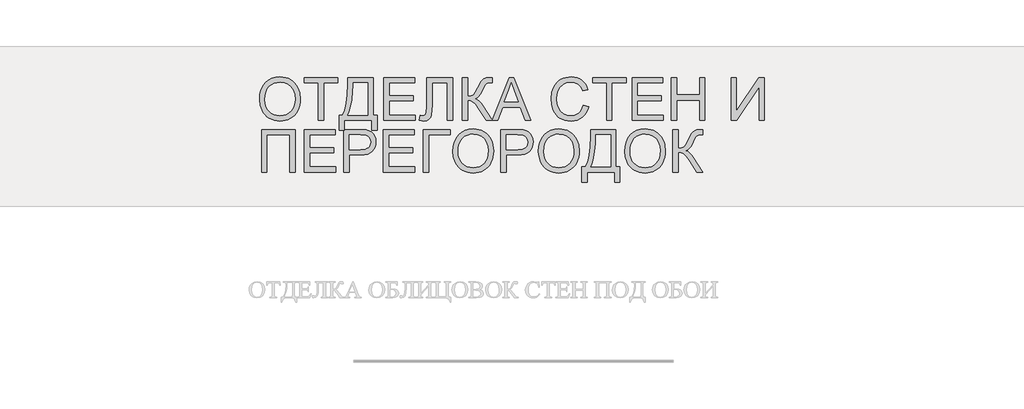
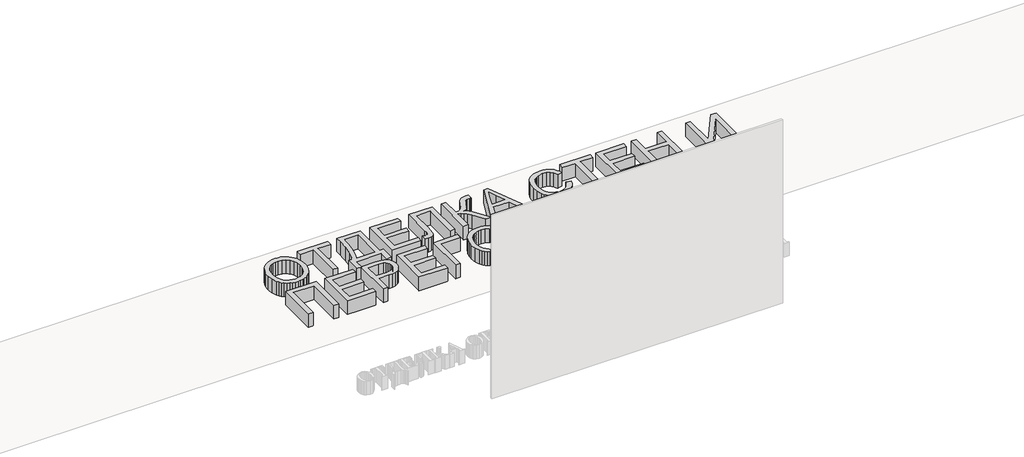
# One storey, part 15 of 17: 1 proxy.
"""IFC4 building model written with IfcOpenShell, lengths in millimetres."""

from ifc_helpers import new_model, si_unit, origin, origin_with_axes, place, context, project, spatial, polyline, outline, extrude, element, save

model = new_model("IFC4")

# Units and contexts
model_context = context("Model", 3, world=origin())
ifc_project = project(units=[si_unit("LENGTHUNIT", "METRE", prefix="MILLI")], contexts=[model_context])

# Site, building, storey
site = spatial("IfcSite", under=ifc_project)
building = spatial("IfcBuilding", under=site)
storey = spatial("IfcBuildingStorey", under=building, Name="Уровень 1", Elevation=0.0)

# Proxy
placement = place(None, origin())
element("IfcBuildingElementProxy", 1, Name="400 мм Arial", ObjectType="400 мм Arial", at=placement, inside=storey, context=model_context, shape_type="SweptSolid", body=[
    extrude(outline(polyline([(-672.1654352, 19327.976291), (-668.817709, 19375.1081059), (-658.7745306, 19416.8320556), (-642.0358998, 19453.1481399), (-618.6018167, 19484.0563588), (-589.8763642, 19508.7351093), (-557.2636254, 19526.3627883), (-520.7636001, 19536.9393956), (-480.3762884, 19540.4649314), (-453.3430931, 19538.8094624), (-427.6710612, 19533.8430555), (-403.3601927, 19525.5657106), (-380.4104875, 19513.9774278), (-359.4657393, 19499.4276948), (-341.1697414, 19482.2659998), (-325.5224939, 19462.4923425), (-312.5239967, 19440.1067231), (-302.30914, 19415.618045), (-295.0128137, 19389.5352115), (-289.1757527, 19332.5870787), (-290.7116601, 19302.9296585), (-295.3193821, 19274.8786564), (-302.9989187, 19248.4340723), (-313.75027, 19223.5959062), (-327.3189843, 19201.0202145), (-343.4506098, 19181.3630532), (-362.1451465, 19164.6244224), (-383.4025944, 19150.8043221), (-406.3860221, 19139.9885915), (-430.2584979, 19132.2630696), (-455.0200219, 19127.6277564), (-480.670594, 19126.082652), (-508.1759045, 19127.7902376), (-534.1851615, 19132.9129944), (-558.6983651, 19141.4509224), (-581.7155153, 19153.4040215), (-602.6357381, 19168.3093737), (-620.8581596, 19185.7040607), (-636.3827798, 19205.5880826), (-649.2095987, 19227.9614392), (-666.4264761, 19276.5831763), (-672.1654352, 19327.976291)]), holes=[polyline([(-621.9372801, 19327.4857817), (-619.4264855, 19294.1863297), (-611.8941016, 19264.6270114), (-599.3401286, 19238.8078267), (-581.7645662, 19216.7287757), (-560.3998194, 19199.0459144), (-536.4782926, 19186.4152993), (-509.999986, 19178.8369301), (-480.9648996, 19176.3108071), (-451.4331724, 19178.8614556), (-424.6421661, 19186.5134011), (-400.5918807, 19199.2666436), (-379.2823161, 19217.1211831), (-361.8355125, 19239.6662181), (-349.3735099, 19266.4909469), (-341.8963083, 19297.5953696), (-339.4039078, 19332.9794861), (-343.671339, 19377.4441566), (-356.4736324, 19415.8755624), (-377.4796943, 19447.3049475), (-406.3584309, 19470.7635561), (-441.1968559, 19485.3684713), (-480.0819828, 19490.2367763), (-508.1084594, 19487.8915286), (-534.1115851, 19480.8557855), (-558.0913599, 19469.1295469), (-580.0477836, 19452.7128128), (-598.3744383, 19430.8146371), (-611.464906, 19402.6440733), (-619.3191866, 19368.2011215), (-621.9372801, 19327.4857817)])]), origin_with_axes(), (0.0, 0.0, 1.0), 150.0),
    extrude(outline(polyline([(-119.6557294, 19132.3611714), (-119.6557294, 19483.9582569), (-251.5046364, 19483.9582569), (-251.5046364, 19534.186412), (62.4213328, 19534.186412), (62.4213328, 19483.9582569), (-69.4275743, 19483.9582569), (-69.4275743, 19132.3611714), (-119.6557294, 19132.3611714)])), origin_with_axes(), (0.0, 0.0, 1.0), 150.0),
    extrude(outline(polyline([(156.5991235, 19534.186412), (395.1828602, 19534.186412), (395.1828602, 19182.5893265), (432.8539765, 19182.5893265), (432.8539765, 19038.1833807), (382.6258214, 19038.1833807), (382.6258214, 19132.3611714), (125.2065266, 19132.3611714), (125.2065266, 19038.1833807), (74.9783715, 19038.1833807), (74.9783715, 19182.5893265), (106.3709685, 19182.5893265), (118.1431923, 19203.0542953), (128.3457863, 19228.1515116), (144.0420848, 19292.2426865), (153.4598639, 19374.8628513), (156.5991235, 19476.0120059), (156.5991235, 19534.186412)]), holes=[polyline([(344.9547051, 19483.9582569), (206.8272786, 19483.9582569), (206.8272786, 19463.7492727), (204.2766301, 19404.1769149), (196.6246846, 19326.1123556), (181.5169974, 19246.5762682), (170.2843338, 19212.6391541), (156.5991235, 19182.5893265), (344.9547051, 19182.5893265), (344.9547051, 19483.9582569)])]), origin_with_axes(), (0.0, 0.0, 1.0), 150.0),
    extrude(outline(polyline([(495.6391703, 19132.3611714), (495.6391703, 19534.186412), (784.451062, 19534.186412), (784.451062, 19483.9582569), (545.8673254, 19483.9582569), (545.8673254, 19364.6663886), (771.8940232, 19364.6663886), (771.8940232, 19314.4382336), (545.8673254, 19314.4382336), (545.8673254, 19182.5893265), (790.7295814, 19182.5893265), (790.7295814, 19132.3611714), (495.6391703, 19132.3611714)])), origin_with_axes(), (0.0, 0.0, 1.0), 150.0),
    extrude(outline(polyline([(897.4644109, 19534.186412), (1142.3266669, 19534.186412), (1142.3266669, 19132.3611714), (1092.0985118, 19132.3611714), (1092.0985118, 19483.9582569), (947.692566, 19483.9582569), (947.692566, 19278.9253583), (946.2333007, 19224.8589677), (941.855505, 19187.4453688), (932.8178706, 19161.5955273), (917.3790896, 19142.2204089), (896.2381376, 19130.1170913), (870.0939905, 19126.082652), (828.4006977, 19132.3611714), (834.6792171, 19182.5893265), (858.7141741, 19176.3108071), (875.6980595, 19179.6830587), (887.8013772, 19189.7998136), (895.0486525, 19212.4245563), (897.4644109, 19253.3207714), (897.4644109, 19534.186412)])), origin_with_axes(), (0.0, 0.0, 1.0), 150.0),
    extrude(outline(polyline([(1454.4868025, 19132.3611714), (1383.0686445, 19245.5707241), (1355.4897576, 19281.880677), (1332.7914385, 19304.677098), (1309.5780846, 19316.7068392), (1280.4540933, 19320.716753), (1280.4540933, 19132.3611714), (1230.2259383, 19132.3611714), (1230.2259383, 19534.186412), (1280.4540933, 19534.186412), (1280.4540933, 19358.3878693), (1314.4586524, 19361.71107), (1336.6174113, 19371.680672), (1354.5332644, 19395.1392806), (1375.8091065, 19438.9295007), (1403.5228835, 19495.0928187), (1416.8892626, 19510.3108705), (1434.9154804, 19522.9046975), (1456.3139498, 19531.3659834), (1479.7970838, 19534.186412), (1512.7593106, 19533.5978008), (1512.7593106, 19483.3696458), (1501.6737998, 19483.6639514), (1490.588289, 19483.9582569), (1467.5834016, 19480.9416246), (1451.3475428, 19471.8917275), (1437.368027, 19452.8844911), (1421.5245758, 19420.1920445), (1402.0881437, 19379.4797703), (1385.9626496, 19357.2106469), (1370.0578846, 19345.487474), (1351.2836401, 19336.4130514), (1370.7384663, 19328.1357065), (1390.0584024, 19313.7024696), (1409.2434485, 19293.1133406), (1428.2936045, 19266.3683195), (1511.0775238, 19135.0293721), (1670.4090082, 19534.186412), (1713.1814215, 19534.186412), (1873.4798696, 19132.3611714), (1820.4067604, 19132.3611714), (1774.4950874, 19257.9315591), (1608.8991386, 19257.9315591), (1562.9874656, 19132.3611714), (1512.7593106, 19132.3611714), (1510.0124583, 19132.3611714), (1454.4868025, 19132.3611714)]), holes=[polyline([(1627.3422893, 19308.1597142), (1756.1500386, 19308.1597142), (1719.8523484, 19406.9482926), (1691.697113, 19483.9582569), (1666.6811373, 19415.5812568), (1627.3422893, 19308.1597142)])]), origin_with_axes(), (0.0, 0.0, 1.0), 150.0),
    extrude(outline(polyline([(2366.6379468, 19275.1974874), (2416.8661019, 19262.2480412), (2406.9271567, 19231.0117941), (2393.6895362, 19203.7180158), (2377.1532405, 19180.3667061), (2357.3182696, 19160.9578652), (2334.6322133, 19145.6999594), (2309.5426612, 19134.8014553), (2282.0496134, 19128.2623529), (2252.1530699, 19126.082652), (2221.5238282, 19127.7319897), (2193.8928246, 19132.6800025), (2169.2600594, 19140.9266905), (2147.6255324, 19152.4720538), (2128.6918724, 19167.1444141), (2112.161708, 19184.772093), (2098.0350394, 19205.3550906), (2086.3118665, 19228.893407), (2070.5297289, 19280.7647683), (2065.2690164, 19336.3149496), (2071.216442, 19394.9062887), (2078.650724, 19421.2037199), (2089.0587187, 19445.5023257), (2102.2074344, 19467.4005015), (2117.863879, 19486.4966427), (2136.0280525, 19502.7907494), (2156.6999549, 19516.2828216), (2179.1775448, 19526.8624946), (2202.7587807, 19534.419404), (2253.2321905, 19540.4649314), (2281.9607086, 19538.5090255), (2308.3041251, 19532.6413076), (2332.2624401, 19522.8617779), (2353.8356534, 19509.1704364), (2372.6681459, 19491.9290335), (2388.4042982, 19471.49932), (2401.0441104, 19447.881296), (2410.5875825, 19421.0749612), (2360.3594275, 19409.1065337), (2342.9463463, 19445.7353177), (2319.156644, 19470.8616579), (2288.6960148, 19485.3929967), (2251.2701532, 19490.2367763), (2208.1298578, 19484.8656992), (2189.4475839, 19478.1518528), (2172.690559, 19468.7524678), (2145.7983851, 19443.5893393), (2128.2994649, 19411.068571), (2118.6977448, 19374.3048969), (2115.4971715, 19336.4130514), (2119.286356, 19290.0108691), (2130.6539097, 19249.8872062), (2150.0290281, 19217.5749042), (2177.8409069, 19194.606805), (2211.1832784, 19180.8848066), (2247.1498748, 19176.3108071), (2268.9867369, 19177.8681742), (2289.0761595, 19182.5402756), (2307.4181427, 19190.3271111), (2324.0126863, 19201.2286809), (2338.4673831, 19215.195934), (2350.3898254, 19232.1798195), (2359.7800133, 19252.1803373), (2366.6379468, 19275.1974874)])), origin_with_axes(), (0.0, 0.0, 1.0), 150.0),
    extrude(outline(polyline([(2586.3861253, 19132.3611714), (2586.3861253, 19483.9582569), (2454.5372182, 19483.9582569), (2454.5372182, 19534.186412), (2768.4631874, 19534.186412), (2768.4631874, 19483.9582569), (2636.6142804, 19483.9582569), (2636.6142804, 19132.3611714), (2586.3861253, 19132.3611714)])), origin_with_axes(), (0.0, 0.0, 1.0), 150.0),
    extrude(outline(polyline([(2824.9698619, 19132.3611714), (2824.9698619, 19534.186412), (3113.7817536, 19534.186412), (3113.7817536, 19483.9582569), (2875.198017, 19483.9582569), (2875.198017, 19364.6663886), (3101.2247148, 19364.6663886), (3101.2247148, 19314.4382336), (2875.198017, 19314.4382336), (2875.198017, 19182.5893265), (3120.060273, 19182.5893265), (3120.060273, 19132.3611714), (2824.9698619, 19132.3611714)])), origin_with_axes(), (0.0, 0.0, 1.0), 150.0),
    extrude(outline(polyline([(3195.4025056, 19132.3611714), (3195.4025056, 19534.186412), (3245.6306606, 19534.186412), (3245.6306606, 19370.944908), (3459.1003197, 19370.944908), (3459.1003197, 19534.186412), (3509.3284748, 19534.186412), (3509.3284748, 19132.3611714), (3459.1003197, 19132.3611714), (3459.1003197, 19320.716753), (3245.6306606, 19320.716753), (3245.6306606, 19132.3611714), (3195.4025056, 19132.3611714)])), origin_with_axes(), (0.0, 0.0, 1.0), 150.0),
    extrude(outline(polyline([(3754.1907308, 19534.186412), (3804.4188859, 19534.186412), (3804.4188859, 19215.9439607), (4014.7492852, 19534.186412), (4068.1167, 19534.186412), (4068.1167, 19132.3611714), (4017.8885449, 19132.3611714), (4017.8885449, 19449.7207059), (3808.1467567, 19132.3611714), (3754.1907308, 19132.3611714), (3754.1907308, 19534.186412)])), origin_with_axes(), (0.0, 0.0, 1.0), 150.0),
    extrude(outline(polyline([(-653.329877, 19046.2871406), (-339.4039078, 19046.2871406), (-339.4039078, 18644.4619), (-389.6320629, 18644.4619), (-389.6320629, 18996.0589856), (-603.101722, 18996.0589856), (-603.101722, 18644.4619), (-653.329877, 18644.4619), (-653.329877, 19046.2871406)])), origin_with_axes(), (0.0, 0.0, 1.0), 150.0),
    extrude(outline(polyline([(-251.5046364, 18644.4619), (-251.5046364, 19046.2871406), (37.3072552, 19046.2871406), (37.3072552, 18996.0589856), (-201.2764814, 18996.0589856), (-201.2764814, 18876.7671173), (24.7502165, 18876.7671173), (24.7502165, 18826.5389622), (-201.2764814, 18826.5389622), (-201.2764814, 18694.6900551), (43.5857746, 18694.6900551), (43.5857746, 18644.4619), (-251.5046364, 18644.4619)])), origin_with_axes(), (0.0, 0.0, 1.0), 150.0),
    extrude(outline(polyline([(118.9280072, 18644.4619), (118.9280072, 19046.2871406), (267.8466389, 19046.2871406), (327.8849805, 19042.4611679), (354.654527, 19035.3119945), (376.6906585, 19023.6746607), (394.4348334, 19007.021869), (408.3285101, 18984.826322), (417.3048308, 18958.6453867), (420.2969377, 18930.0364302), (418.2766524, 18905.3699424), (412.2157965, 18882.6777547), (402.1143701, 18861.959867), (387.972373, 18843.2162793), (368.5574008, 18827.6793964), (342.6370485, 18816.5816229), (310.2113163, 18809.9229587), (271.2802042, 18807.703404), (169.1561623, 18807.703404), (169.1561623, 18644.4619), (118.9280072, 18644.4619)]), holes=[polyline([(169.1561623, 18857.9315591), (274.2232601, 18857.9315591), (318.761507, 18862.5423468), (335.3652477, 18868.3058314), (348.1920666, 18876.3747098), (357.7631299, 18886.5343842), (364.5996036, 18898.5702568), (370.0687826, 18928.2705966), (366.8436838, 18950.8340256), (357.1683873, 18969.8657875), (342.244641, 18984.1886599), (323.2741928, 18992.6254203), (273.0460378, 18996.0589856), (169.1561623, 18996.0589856), (169.1561623, 18857.9315591)])]), origin_with_axes(), (0.0, 0.0, 1.0), 150.0),
    extrude(outline(polyline([(489.3606509, 18644.4619), (489.3606509, 19046.2871406), (778.1725426, 19046.2871406), (778.1725426, 18996.0589856), (539.588806, 18996.0589856), (539.588806, 18876.7671173), (765.6155038, 18876.7671173), (765.6155038, 18826.5389622), (539.588806, 18826.5389622), (539.588806, 18694.6900551), (784.451062, 18694.6900551), (784.451062, 18644.4619), (489.3606509, 18644.4619)])), origin_with_axes(), (0.0, 0.0, 1.0), 150.0),
    extrude(outline(polyline([(866.071814, 19046.2871406), (1117.2125894, 19046.2871406), (1117.2125894, 18996.0589856), (916.2999691, 18996.0589856), (916.2999691, 18644.4619), (866.071814, 18644.4619), (866.071814, 19046.2871406)])), origin_with_axes(), (0.0, 0.0, 1.0), 150.0),
    extrude(outline(polyline([(1142.3266669, 18840.0770196), (1145.674393, 18887.2088346), (1155.7175715, 18928.9327842), (1172.4562023, 18965.2488685), (1195.8902854, 18996.1570874), (1224.6157378, 19020.8358379), (1257.2284767, 19038.4635169), (1293.728502, 19049.0401242), (1334.1158137, 19052.56566), (1361.149009, 19050.910191), (1386.8210409, 19045.9437841), (1411.1319094, 19037.6664392), (1434.0816145, 19026.0781564), (1455.0263628, 19011.5284235), (1473.3223607, 18994.3667284), (1488.9696082, 18974.5930711), (1501.9681054, 18952.2074517), (1512.1829621, 18927.7187736), (1519.4792883, 18901.6359401), (1525.3163493, 18844.6878073), (1523.780442, 18815.0303871), (1519.17272, 18786.979385), (1511.4931834, 18760.5348009), (1500.7418321, 18735.6966348), (1487.1731178, 18713.1209431), (1471.0414923, 18693.4637818), (1452.3469556, 18676.725151), (1431.0895076, 18662.9050507), (1408.10608, 18652.0893201), (1384.2336042, 18644.3637982), (1359.4720802, 18639.728485), (1333.8215081, 18638.1833807), (1306.3161976, 18639.8909663), (1280.3069405, 18645.013723), (1255.7937369, 18653.551651), (1232.7765868, 18665.5047502), (1211.856364, 18680.4101023), (1193.6339425, 18697.8047893), (1178.1093223, 18717.6888112), (1165.2825034, 18740.0621679), (1148.065626, 18788.6839049), (1142.3266669, 18840.0770196)]), holes=[polyline([(1192.554822, 18839.5865103), (1195.0656166, 18806.2870584), (1202.5980004, 18776.72774), (1215.1519735, 18750.9085553), (1232.7275358, 18728.8295043), (1254.0922827, 18711.146643), (1278.0138094, 18698.5160279), (1304.492116, 18690.9376588), (1333.5272025, 18688.4115357), (1363.0589297, 18690.9621842), (1389.849936, 18698.6141297), (1413.9002214, 18711.3673722), (1435.209786, 18729.2219117), (1452.6565896, 18751.7669467), (1465.1185922, 18778.5916755), (1472.5957937, 18809.6960982), (1475.0881943, 18845.0802147), (1470.8207631, 18889.5448852), (1458.0184697, 18927.976291), (1437.0124078, 18959.4056761), (1408.1336711, 18982.8642847), (1373.2952462, 18997.4691999), (1334.4101193, 19002.337505), (1306.3836426, 18999.9922572), (1280.3805169, 18992.9565141), (1256.4007422, 18981.2302755), (1234.4443185, 18964.8135414), (1216.1176638, 18942.9153657), (1203.0271961, 18914.7448019), (1195.1729155, 18880.3018501), (1192.554822, 18839.5865103)])]), origin_with_axes(), (0.0, 0.0, 1.0), 150.0),
    extrude(outline(polyline([(1594.3800626, 18644.4619), (1594.3800626, 19046.2871406), (1743.2986942, 19046.2871406), (1803.3370358, 19042.4611679), (1830.1065823, 19035.3119945), (1852.1427138, 19023.6746607), (1869.8868888, 19007.021869), (1883.7805654, 18984.826322), (1892.7568861, 18958.6453867), (1895.748993, 18930.0364302), (1893.7287077, 18905.3699424), (1887.6678519, 18882.6777547), (1877.5664254, 18861.959867), (1863.4244284, 18843.2162793), (1844.0094561, 18827.6793964), (1818.0891038, 18816.5816229), (1785.6633716, 18809.9229587), (1746.7322595, 18807.703404), (1644.6082176, 18807.703404), (1644.6082176, 18644.4619), (1594.3800626, 18644.4619)]), holes=[polyline([(1644.6082176, 18857.9315591), (1749.6753155, 18857.9315591), (1794.2135623, 18862.5423468), (1810.8173031, 18868.3058314), (1823.644122, 18876.3747098), (1833.2151852, 18886.5343842), (1840.0516589, 18898.5702568), (1845.5208379, 18928.2705966), (1842.2957391, 18950.8340256), (1832.6204426, 18969.8657875), (1817.6966964, 18984.1886599), (1798.7262482, 18992.6254203), (1748.4980931, 18996.0589856), (1644.6082176, 18996.0589856), (1644.6082176, 18857.9315591)])]), origin_with_axes(), (0.0, 0.0, 1.0), 150.0),
    extrude(outline(polyline([(1945.9771481, 18840.0770196), (1949.3248742, 18887.2088346), (1959.3680527, 18928.9327842), (1976.1066835, 18965.2488685), (1999.5407666, 18996.1570874), (2028.266219, 19020.8358379), (2060.8789579, 19038.4635169), (2097.3789832, 19049.0401242), (2137.7662949, 19052.56566), (2164.7994902, 19050.910191), (2190.4715221, 19045.9437841), (2214.7823906, 19037.6664392), (2237.7320957, 19026.0781564), (2258.676844, 19011.5284235), (2276.9728419, 18994.3667284), (2292.6200894, 18974.5930711), (2305.6185866, 18952.2074517), (2315.8334433, 18927.7187736), (2323.1297695, 18901.6359401), (2328.9668305, 18844.6878073), (2327.4309232, 18815.0303871), (2322.8232012, 18786.979385), (2315.1436646, 18760.5348009), (2304.3923133, 18735.6966348), (2290.823599, 18713.1209431), (2274.6919735, 18693.4637818), (2255.9974368, 18676.725151), (2234.7399888, 18662.9050507), (2211.7565612, 18652.0893201), (2187.8840854, 18644.3637982), (2163.1225614, 18639.728485), (2137.4719893, 18638.1833807), (2109.9666788, 18639.8909663), (2083.9574217, 18645.013723), (2059.4442181, 18653.551651), (2036.427068, 18665.5047502), (2015.5068452, 18680.4101023), (1997.2844237, 18697.8047893), (1981.7598035, 18717.6888112), (1968.9329846, 18740.0621679), (1951.7161072, 18788.6839049), (1945.9771481, 18840.0770196)]), holes=[polyline([(1996.2053032, 18839.5865103), (1998.7160978, 18806.2870584), (2006.2484816, 18776.72774), (2018.8024547, 18750.9085553), (2036.378017, 18728.8295043), (2057.7427639, 18711.146643), (2081.6642906, 18698.5160279), (2108.1425972, 18690.9376588), (2137.1776837, 18688.4115357), (2166.7094109, 18690.9621842), (2193.5004172, 18698.6141297), (2217.5507026, 18711.3673722), (2238.8602672, 18729.2219117), (2256.3070708, 18751.7669467), (2268.7690734, 18778.5916755), (2276.2462749, 18809.6960982), (2278.7386755, 18845.0802147), (2274.4712443, 18889.5448852), (2261.6689509, 18927.976291), (2240.662889, 18959.4056761), (2211.7841523, 18982.8642847), (2176.9457274, 18997.4691999), (2138.0606005, 19002.337505), (2110.0341238, 18999.9922572), (2084.0309981, 18992.9565141), (2060.0512234, 18981.2302755), (2038.0947997, 18964.8135414), (2019.768145, 18942.9153657), (2006.6776773, 18914.7448019), (1998.8233967, 18880.3018501), (1996.2053032, 18839.5865103)])]), origin_with_axes(), (0.0, 0.0, 1.0), 150.0),
    extrude(outline(polyline([(2435.7016601, 19046.2871406), (2674.2853967, 19046.2871406), (2674.2853967, 18694.6900551), (2711.956513, 18694.6900551), (2711.956513, 18550.2841093), (2661.7283579, 18550.2841093), (2661.7283579, 18644.4619), (2404.3090631, 18644.4619), (2404.3090631, 18550.2841093), (2354.0809081, 18550.2841093), (2354.0809081, 18694.6900551), (2385.473505, 18694.6900551), (2397.2457288, 18715.1550239), (2407.4483228, 18740.2522402), (2423.1446213, 18804.3434151), (2432.5624004, 18886.9635799), (2435.7016601, 18988.1127345), (2435.7016601, 19046.2871406)]), holes=[polyline([(2624.0572416, 18996.0589856), (2485.9298151, 18996.0589856), (2485.9298151, 18975.8500013), (2483.3791666, 18916.2776435), (2475.7272211, 18838.2130842), (2460.6195339, 18758.6769968), (2449.3868703, 18724.7398828), (2435.7016601, 18694.6900551), (2624.0572416, 18694.6900551), (2624.0572416, 18996.0589856)])]), origin_with_axes(), (0.0, 0.0, 1.0), 150.0),
    extrude(outline(polyline([(2755.9061487, 18840.0770196), (2759.2538748, 18887.2088346), (2769.2970533, 18928.9327842), (2786.0356841, 18965.2488685), (2809.4697672, 18996.1570874), (2838.1952196, 19020.8358379), (2870.8079585, 19038.4635169), (2907.3079838, 19049.0401242), (2947.6952955, 19052.56566), (2974.7284908, 19050.910191), (3000.4005227, 19045.9437841), (3024.7113912, 19037.6664392), (3047.6610963, 19026.0781564), (3068.6058446, 19011.5284235), (3086.9018425, 18994.3667284), (3102.54909, 18974.5930711), (3115.5475872, 18952.2074517), (3125.7624439, 18927.7187736), (3133.0587701, 18901.6359401), (3138.8958311, 18844.6878073), (3137.3599238, 18815.0303871), (3132.7522018, 18786.979385), (3125.0726651, 18760.5348009), (3114.3213138, 18735.6966348), (3100.7525996, 18713.1209431), (3084.6209741, 18693.4637818), (3065.9264374, 18676.725151), (3044.6689894, 18662.9050507), (3021.6855618, 18652.0893201), (2997.813086, 18644.3637982), (2973.051562, 18639.728485), (2947.4009899, 18638.1833807), (2919.8956794, 18639.8909663), (2893.8864223, 18645.013723), (2869.3732187, 18653.551651), (2846.3560685, 18665.5047502), (2825.4358458, 18680.4101023), (2807.2134243, 18697.8047893), (2791.6888041, 18717.6888112), (2778.8619852, 18740.0621679), (2761.6451078, 18788.6839049), (2755.9061487, 18840.0770196)]), holes=[polyline([(2806.1343037, 18839.5865103), (2808.6450984, 18806.2870584), (2816.1774822, 18776.72774), (2828.7314553, 18750.9085553), (2846.3070176, 18728.8295043), (2867.6717645, 18711.146643), (2891.5932912, 18698.5160279), (2918.0715978, 18690.9376588), (2947.1066843, 18688.4115357), (2976.6384115, 18690.9621842), (3003.4294178, 18698.6141297), (3027.4797032, 18711.3673722), (3048.7892678, 18729.2219117), (3066.2360714, 18751.7669467), (3078.698074, 18778.5916755), (3086.1752755, 18809.6960982), (3088.667676, 18845.0802147), (3084.4002449, 18889.5448852), (3071.5979515, 18927.976291), (3050.5918895, 18959.4056761), (3021.7131529, 18982.8642847), (2986.874728, 18997.4691999), (2947.9896011, 19002.337505), (2919.9631244, 18999.9922572), (2893.9599987, 18992.9565141), (2869.980224, 18981.2302755), (2848.0238003, 18964.8135414), (2829.6971455, 18942.9153657), (2816.6066779, 18914.7448019), (2808.7523973, 18880.3018501), (2806.1343037, 18839.5865103)])]), origin_with_axes(), (0.0, 0.0, 1.0), 150.0),
    extrude(outline(polyline([(3207.9595443, 19046.2871406), (3258.1876994, 19046.2871406), (3258.1876994, 18870.4885979), (3292.1922585, 18873.8117986), (3314.3510173, 18883.7814006), (3332.2668705, 18907.2400092), (3353.5427126, 18951.0302294), (3381.2564895, 19007.1935473), (3394.6228687, 19022.4115992), (3412.6490865, 19035.0054261), (3434.0475558, 19043.466712), (3457.5306899, 19046.2871406), (3490.4929166, 19045.6985295), (3490.4929166, 18995.4703744), (3479.4074058, 18995.76468), (3468.3218951, 18996.0589856), (3445.3170076, 18993.0423532), (3429.0811489, 18983.9924561), (3415.1016331, 18964.9852197), (3399.2581818, 18932.2927731), (3379.8217498, 18891.5804989), (3363.6962556, 18869.3113755), (3347.7914907, 18857.5882026), (3329.0172462, 18848.51378), (3348.4720724, 18840.2364351), (3367.7920085, 18825.8031982), (3386.9770546, 18805.2140692), (3406.0272105, 18778.4690482), (3490.4929166, 18644.4619), (3432.2204086, 18644.4619), (3360.8022506, 18757.6714527), (3333.2233637, 18793.9814056), (3310.5250446, 18816.7778266), (3287.3116907, 18828.8075678), (3258.1876994, 18832.8174816), (3258.1876994, 18644.4619), (3207.9595443, 18644.4619), (3207.9595443, 19046.2871406)])), origin_with_axes(), (0.0, 0.0, 1.0), 150.0),
])

save(model, "model.ifc")
